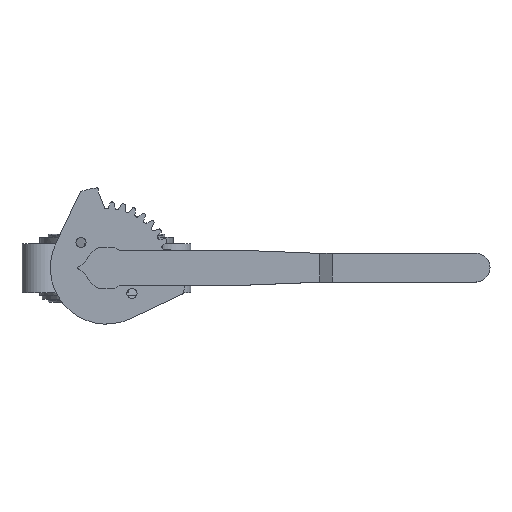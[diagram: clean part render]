
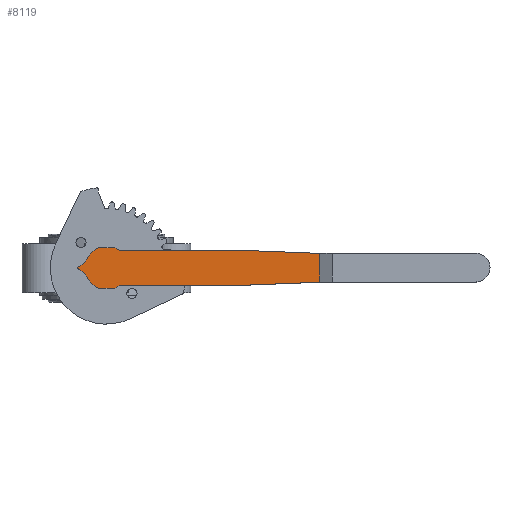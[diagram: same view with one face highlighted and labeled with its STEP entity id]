
A CAD part, top view. The second image highlights one B-rep face of the part: STEP entity #8119.
In plain terms, the highlighted planar face has unit normal (0, 0, 1) as drawn and (0, 0, -1) by its records, which use the part's own axes.
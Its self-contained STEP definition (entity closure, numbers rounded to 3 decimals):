
#42 = VERTEX_POINT ( 'NONE', #6461 ) ;
#141 = DIRECTION ( 'NONE',  ( 0., 0., -1. ) ) ;
#300 = DIRECTION ( 'NONE',  ( -1., 0., 0. ) ) ;
#430 = VERTEX_POINT ( 'NONE', #4153 ) ;
#450 = VERTEX_POINT ( 'NONE', #3638 ) ;
#474 = CARTESIAN_POINT ( 'NONE',  ( -19.423, -0.906, 5. ) ) ;
#488 = DIRECTION ( 'NONE',  ( -1., 0., 0. ) ) ;
#501 = VERTEX_POINT ( 'NONE', #2888 ) ;
#584 = ORIENTED_EDGE ( 'NONE', *, *, #1916, .F. ) ;
#586 = LINE ( 'NONE', #4471, #2685 ) ;
#652 = DIRECTION ( 'NONE',  ( 0., 0., -1. ) ) ;
#705 = ORIENTED_EDGE ( 'NONE', *, *, #8554, .T. ) ;
#725 = DIRECTION ( 'NONE',  ( 0., 0., -1. ) ) ;
#874 = VECTOR ( 'NONE', #4400, 1000. ) ;
#910 = VECTOR ( 'NONE', #1248, 1000. ) ;
#935 = VERTEX_POINT ( 'NONE', #6232 ) ;
#1190 = CARTESIAN_POINT ( 'NONE',  ( -17.827, 1.65, 5. ) ) ;
#1245 = LINE ( 'NONE', #6712, #8775 ) ;
#1248 = DIRECTION ( 'NONE',  ( 0., -1., 0. ) ) ;
#1279 = EDGE_CURVE ( 'NONE', #42, #8706, #8427, .T. ) ;
#1308 = EDGE_CURVE ( 'NONE', #7613, #2374, #4777, .T. ) ;
#1389 = LINE ( 'NONE', #5619, #910 ) ;
#1435 = CARTESIAN_POINT ( 'NONE',  ( 0., -12., 5. ) ) ;
#1472 = EDGE_CURVE ( 'NONE', #3612, #2891, #3420, .T. ) ;
#1476 = EDGE_CURVE ( 'NONE', #935, #501, #1245, .T. ) ;
#1483 = VECTOR ( 'NONE', #3000, 1000. ) ;
#1556 = VECTOR ( 'NONE', #4775, 1000. ) ;
#1721 = CARTESIAN_POINT ( 'NONE',  ( 0.636, 15.895, 5. ) ) ;
#1731 = AXIS2_PLACEMENT_3D ( 'NONE', #7886, #4214, #6411 ) ;
#1769 = EDGE_CURVE ( 'NONE', #3612, #3529, #8719, .T. ) ;
#1883 = DIRECTION ( 'NONE',  ( 0., 0., 1. ) ) ;
#1916 = EDGE_CURVE ( 'NONE', #7145, #3671, #586, .T. ) ;
#2374 = VERTEX_POINT ( 'NONE', #5852 ) ;
#2379 = ORIENTED_EDGE ( 'NONE', *, *, #7777, .T. ) ;
#2519 = EDGE_CURVE ( 'NONE', #450, #5363, #6908, .T. ) ;
#2654 = CARTESIAN_POINT ( 'NONE',  ( -5.385, 14., 5. ) ) ;
#2685 = VECTOR ( 'NONE', #4002, 1000. ) ;
#2745 = ORIENTED_EDGE ( 'NONE', *, *, #1769, .F. ) ;
#2806 = EDGE_CURVE ( 'NONE', #3845, #7613, #6669, .T. ) ;
#2863 = DIRECTION ( 'NONE',  ( -0.999, -0.04, 0. ) ) ;
#2888 = CARTESIAN_POINT ( 'NONE',  ( -5.385, -14., 5. ) ) ;
#2891 = VERTEX_POINT ( 'NONE', #474 ) ;
#2900 = VECTOR ( 'NONE', #5369, 1000. ) ;
#2907 = DIRECTION ( 'NONE',  ( -1., 0., 0. ) ) ;
#2981 = FACE_OUTER_BOUND ( 'NONE', #8621, .T. ) ;
#3000 = DIRECTION ( 'NONE',  ( -0.906, 0.423, 0. ) ) ;
#3011 = VECTOR ( 'NONE', #2863, 1000. ) ;
#3054 = ORIENTED_EDGE ( 'NONE', *, *, #1279, .T. ) ;
#3301 = DIRECTION ( 'NONE',  ( -1., 0., 0. ) ) ;
#3420 = LINE ( 'NONE', #8858, #1483 ) ;
#3464 = CARTESIAN_POINT ( 'NONE',  ( 0.636, -15.895, 5. ) ) ;
#3493 = LINE ( 'NONE', #9102, #1556 ) ;
#3529 = VERTEX_POINT ( 'NONE', #3862 ) ;
#3589 = DIRECTION ( 'NONE',  ( -1., 0., 0. ) ) ;
#3604 = ORIENTED_EDGE ( 'NONE', *, *, #1472, .T. ) ;
#3612 = VERTEX_POINT ( 'NONE', #5270 ) ;
#3638 = CARTESIAN_POINT ( 'NONE',  ( 148., 10., 5. ) ) ;
#3671 = VERTEX_POINT ( 'NONE', #6541 ) ;
#3724 = ORIENTED_EDGE ( 'NONE', *, *, #8542, .F. ) ;
#3752 = AXIS2_PLACEMENT_3D ( 'NONE', #7996, #4335, #2907 ) ;
#3845 = VERTEX_POINT ( 'NONE', #4684 ) ;
#3852 = DIRECTION ( 'NONE',  ( -1., 0., 0. ) ) ;
#3862 = CARTESIAN_POINT ( 'NONE',  ( -13.831, -5.805, 5. ) ) ;
#3867 = AXIS2_PLACEMENT_3D ( 'NONE', #6574, #141, #7304 ) ;
#3988 = AXIS2_PLACEMENT_3D ( 'NONE', #9056, #4696, #300 ) ;
#4002 = DIRECTION ( 'NONE',  ( -0.906, -0.423, 0. ) ) ;
#4072 = DIRECTION ( 'NONE',  ( -1., 0., 0. ) ) ;
#4153 = CARTESIAN_POINT ( 'NONE',  ( 5.385, 14., 5. ) ) ;
#4171 = AXIS2_PLACEMENT_3D ( 'NONE', #7967, #1883, #488 ) ;
#4195 = ORIENTED_EDGE ( 'NONE', *, *, #7611, .T. ) ;
#4214 = DIRECTION ( 'NONE',  ( 0., 0., -1. ) ) ;
#4265 = EDGE_CURVE ( 'NONE', #450, #3845, #1389, .T. ) ;
#4291 = ORIENTED_EDGE ( 'NONE', *, *, #7447, .T. ) ;
#4335 = DIRECTION ( 'NONE',  ( 0., 0., -1. ) ) ;
#4400 = DIRECTION ( 'NONE',  ( -1., 0., 0. ) ) ;
#4422 = CARTESIAN_POINT ( 'NONE',  ( 0., 0., 5. ) ) ;
#4471 = CARTESIAN_POINT ( 'NONE',  ( -3.816, 8.184, 5. ) ) ;
#4526 = EDGE_CURVE ( 'NONE', #3671, #2891, #9359, .T. ) ;
#4684 = CARTESIAN_POINT ( 'NONE',  ( 148., -10., 5. ) ) ;
#4696 = DIRECTION ( 'NONE',  ( 0., 0., 1. ) ) ;
#4716 = AXIS2_PLACEMENT_3D ( 'NONE', #4422, #652, #5130 ) ;
#4775 = DIRECTION ( 'NONE',  ( -1., 0., 0. ) ) ;
#4777 = LINE ( 'NONE', #1435, #874 ) ;
#4837 = ORIENTED_EDGE ( 'NONE', *, *, #1308, .T. ) ;
#4978 = ORIENTED_EDGE ( 'NONE', *, *, #1476, .T. ) ;
#5130 = DIRECTION ( 'NONE',  ( -1., 0., 0. ) ) ;
#5247 = VECTOR ( 'NONE', #3301, 1000. ) ;
#5270 = CARTESIAN_POINT ( 'NONE',  ( -17.827, -1.65, 5. ) ) ;
#5363 = VERTEX_POINT ( 'NONE', #9456 ) ;
#5369 = DIRECTION ( 'NONE',  ( -0.999, 0.04, 0. ) ) ;
#5619 = CARTESIAN_POINT ( 'NONE',  ( 148., -47.763, 5. ) ) ;
#5698 = CARTESIAN_POINT ( 'NONE',  ( 9., 12., 5. ) ) ;
#5852 = CARTESIAN_POINT ( 'NONE',  ( 9., -12., 5. ) ) ;
#6232 = CARTESIAN_POINT ( 'NONE',  ( 5.385, -14., 5. ) ) ;
#6319 = ORIENTED_EDGE ( 'NONE', *, *, #2806, .T. ) ;
#6411 = DIRECTION ( 'NONE',  ( -1., 0., 0. ) ) ;
#6461 = CARTESIAN_POINT ( 'NONE',  ( -13.831, 5.805, 5. ) ) ;
#6541 = CARTESIAN_POINT ( 'NONE',  ( -19.423, 0.906, 5. ) ) ;
#6574 = CARTESIAN_POINT ( 'NONE',  ( 0., 0., 5. ) ) ;
#6669 = LINE ( 'NONE', #3464, #3011 ) ;
#6712 = CARTESIAN_POINT ( 'NONE',  ( 0., -14., 5. ) ) ;
#6887 = AXIS2_PLACEMENT_3D ( 'NONE', #9377, #725, #3589 ) ;
#6908 = LINE ( 'NONE', #1721, #2900 ) ;
#7133 = PLANE ( 'NONE',  #1731 ) ;
#7139 = CARTESIAN_POINT ( 'NONE',  ( 98., -12., 5. ) ) ;
#7145 = VERTEX_POINT ( 'NONE', #1190 ) ;
#7304 = DIRECTION ( 'NONE',  ( -1., 0., 0. ) ) ;
#7447 = EDGE_CURVE ( 'NONE', #430, #8133, #9404, .T. ) ;
#7598 = EDGE_CURVE ( 'NONE', #430, #8706, #3493, .T. ) ;
#7611 = EDGE_CURVE ( 'NONE', #501, #3529, #9073, .T. ) ;
#7613 = VERTEX_POINT ( 'NONE', #7139 ) ;
#7669 = CARTESIAN_POINT ( 'NONE',  ( 0., 12., 5. ) ) ;
#7714 = CARTESIAN_POINT ( 'NONE',  ( 0., 0., 5. ) ) ;
#7776 = AXIS2_PLACEMENT_3D ( 'NONE', #7714, #8438, #4072 ) ;
#7777 = EDGE_CURVE ( 'NONE', #2374, #935, #8603, .T. ) ;
#7886 = CARTESIAN_POINT ( 'NONE',  ( 0., 0., 5. ) ) ;
#7967 = CARTESIAN_POINT ( 'NONE',  ( -19., 0., 5. ) ) ;
#7996 = CARTESIAN_POINT ( 'NONE',  ( 0., 0., 5. ) ) ;
#8119 = ADVANCED_FACE ( 'NONE', ( #2981 ), #7133, .T. ) ;
#8133 = VERTEX_POINT ( 'NONE', #5698 ) ;
#8427 = CIRCLE ( 'NONE', #3752, 15. ) ;
#8438 = DIRECTION ( 'NONE',  ( 0., 0., -1. ) ) ;
#8542 = EDGE_CURVE ( 'NONE', #5363, #8133, #8950, .T. ) ;
#8554 = EDGE_CURVE ( 'NONE', #7145, #42, #9338, .T. ) ;
#8597 = ORIENTED_EDGE ( 'NONE', *, *, #4526, .F. ) ;
#8603 = CIRCLE ( 'NONE', #4716, 15. ) ;
#8621 = EDGE_LOOP ( 'NONE', ( #6319, #4837, #2379, #4978, #4195, #2745, #3604, #8597, #584, #705, #3054, #9316, #4291, #3724, #8767, #8933 ) ) ;
#8706 = VERTEX_POINT ( 'NONE', #2654 ) ;
#8719 = CIRCLE ( 'NONE', #6887, 8. ) ;
#8767 = ORIENTED_EDGE ( 'NONE', *, *, #2519, .F. ) ;
#8775 = VECTOR ( 'NONE', #3852, 1000. ) ;
#8858 = CARTESIAN_POINT ( 'NONE',  ( -3.816, -8.184, 5. ) ) ;
#8933 = ORIENTED_EDGE ( 'NONE', *, *, #4265, .T. ) ;
#8950 = LINE ( 'NONE', #7669, #5247 ) ;
#9056 = CARTESIAN_POINT ( 'NONE',  ( -21.208, 8.901, 5. ) ) ;
#9073 = CIRCLE ( 'NONE', #7776, 15. ) ;
#9102 = CARTESIAN_POINT ( 'NONE',  ( 0., 14., 5. ) ) ;
#9316 = ORIENTED_EDGE ( 'NONE', *, *, #7598, .F. ) ;
#9338 = CIRCLE ( 'NONE', #3988, 8. ) ;
#9359 = CIRCLE ( 'NONE', #4171, 1. ) ;
#9377 = CARTESIAN_POINT ( 'NONE',  ( -21.208, -8.901, 5. ) ) ;
#9404 = CIRCLE ( 'NONE', #3867, 15. ) ;
#9456 = CARTESIAN_POINT ( 'NONE',  ( 98., 12., 5. ) ) ;
